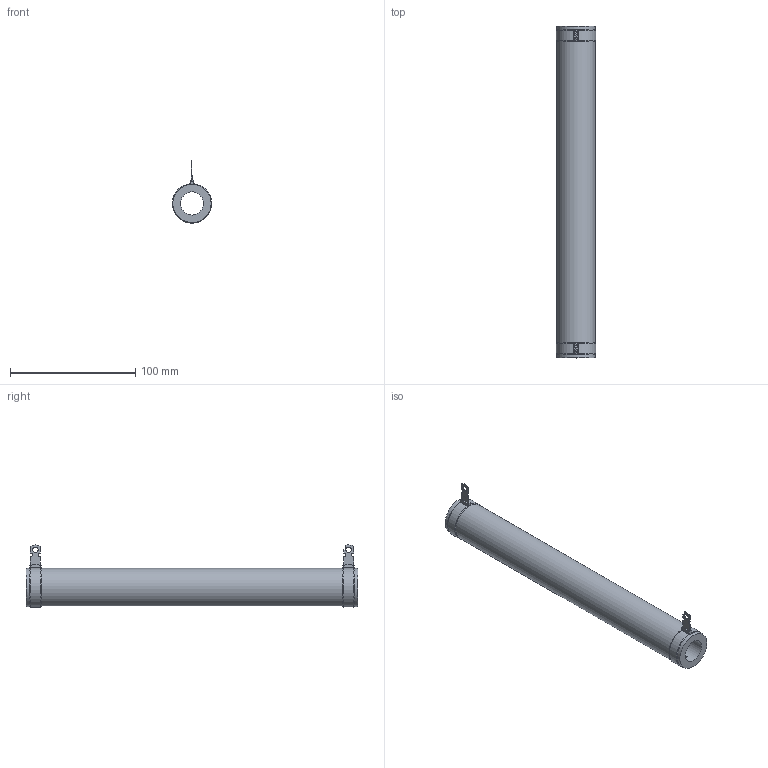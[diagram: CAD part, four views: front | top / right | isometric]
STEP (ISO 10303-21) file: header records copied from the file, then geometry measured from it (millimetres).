
FILE_DESCRIPTION(/* description */ (''),/* implementation_level */ '2;1');
FILE_NAME(/* name */ 'C:\_Vault\Dati\CATALOGO\RCA-RSA\25-1000\CA0250.stp',/* time_stamp */ '2014-01-22T15:19:32+01:00',/* author */ ('stefano'),/* organization */ (''),/* preprocessor_version */ 'ST-DEVELOPER v15.2',/* originating_system */ 'Autodesk Inventor 2014',/* authorisation */ '');
FILE_SCHEMA (('AUTOMOTIVE_DESIGN { 1 0 10303 214 3 1 1 }'));
Length unit declared in the file: millimetre
Products named in the file (1): CA0250
Bounding box: 31.43 x 265 x 49.69 mm (x, y, z)
Volume: 123487.6 mm3; surface area: 42542.2 mm2
Topology: 1 solids, 1 shells, 81 faces, 196 edges, 122 vertices
Faces by surface type: plane 38, cylinder 31, torus 12
Full cylindrical faces by diameter (mm): 4.2 x2, 18.5 x1, 30.5 x3
Entity records: 2516 total; most frequent: CARTESIAN_POINT 462, DIRECTION 428, ORIENTED_EDGE 376, EDGE_CURVE 188, AXIS2_PLACEMENT_3D 166, VERTEX_POINT 120, EDGE_LOOP 98, LINE 96
